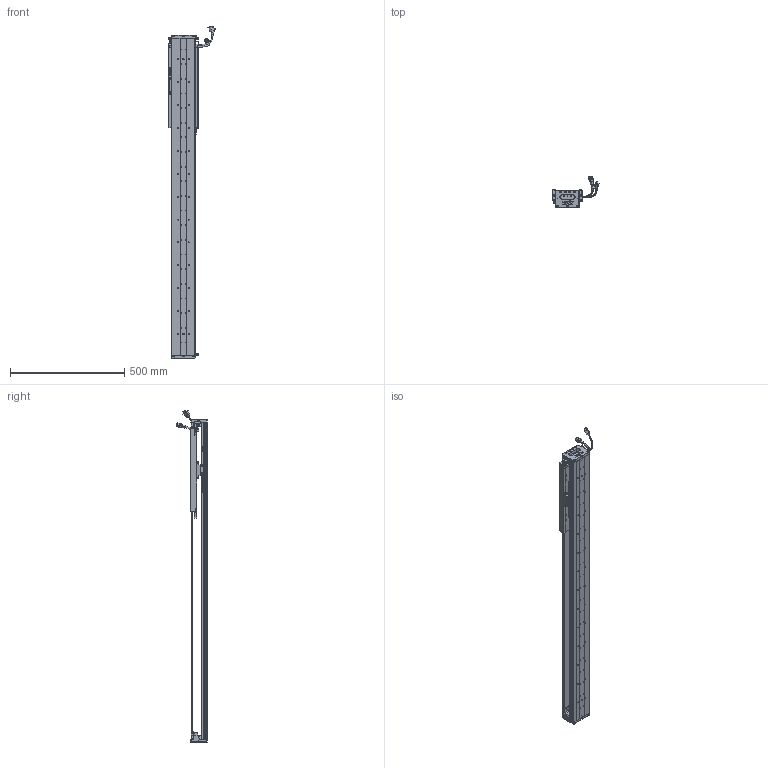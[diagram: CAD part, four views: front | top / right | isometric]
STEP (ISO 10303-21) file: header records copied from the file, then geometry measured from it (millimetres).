
FILE_DESCRIPTION (( 'STEP AP203' ), '1' );
FILE_NAME ('Z5-RY100D-1-L500-B-K.SLDASM_0950.step', '2021-05-17T03:32:56', ( '盈信电脑' ), ( '东莞市道滘镇水果街19号' ), 'SwSTEP 2.0', 'SolidWorks 2016', '' );
FILE_SCHEMA (( 'CONFIG_CONTROL_DESIGN' ));
Length unit declared in the file: millimetre
Products named in the file (36): Z5-RY100-L500詩湍90mm遵_0950; HOLDER0; SCREW-M1.7-1; Z5-RY100D-500-倰第菁釱_0950; HARNESS; SCALE; SCREW-M1.6-1; Z-100詩湍傷裔啣; HARNESS-Part-2; PBU_SHEET; LABEL; PSLH080_PSLF2; SEAL; 140雄赽晤鎢ん堤盄; SCREW-M1.7; SCREW-M1.6-2; 100-Z-臏賑輸盄裔(21遴); 080黍杅芛假蚾釱21遴; 140蚥薯蝶輸; COVER-Part-1; SHIELDPLATE; COVER; 榋妏寠巭燃_暯_M2_2; HARNESS-Part-1; Z-RY100D覜茼んえ; Z-RY100D詩湍奻揤裔; SCREW-M1.6-3; Z5-RY100D-1-L500-B-K.SLDASM_0950; SEAL-Part-1; Z-RY100D詩湍狟揤裔; SCALE-Part-1; LABEL-Part-1; SCREW-M1.6; SCALE-Part-2; Z5-RY100铝滑块（21款）; 覜茼ん672
Assembly tree (43 placements, depth 4):
  Z5-RY100D-1-L500-B-K.SLDASM_0950
    Z5-RY100D-500-倰第菁釱_0950
    Z5-RY100铝滑块（21款）
    PSLH080_PSLF2
      SCALE
        SCALE-Part-1
        SCALE-Part-2
      HARNESS
        HARNESS-Part-1
        HARNESS-Part-2
      LABEL
        LABEL-Part-1
      COVER
        COVER-Part-1
      SEAL
        SEAL-Part-1
      榋妏寠巭燃_暯_M2_2
      SHIELDPLATE
      SCREW-M1.7
      SCREW-M1.7-1
      PBU_SHEET
      SCREW-M1.6
      SCREW-M1.6-1
      SCREW-M1.6-2
      SCREW-M1.6-3
      HOLDER0
    080黍杅芛假蚾釱21遴
    Z-100詩湍傷裔啣  x2
    140蚥薯蝶輸  x2
    覜茼ん672  x3
    Z-RY100D覜茼んえ  x3
    100-Z-臏賑輸盄裔(21遴)
    140雄赽晤鎢ん堤盄
    Z5-RY100-L500詩湍90mm遵_0950
    Z-RY100D詩湍狟揤裔  x2
    Z-RY100D詩湍奻揤裔  x2
Bounding box: 205.84 x 136.11 x 1450.43 mm (x, y, z)
Volume: 3150083.1 mm3; surface area: 1180297.2 mm2
Topology: 38 solids, 38 shells, 2671 faces, 7063 edges, 4476 vertices
Faces by surface type: cylinder 1190, plane 1133, cone 226, torus 69, bspline 53
Entity records: 73541 total; most frequent: CARTESIAN_POINT 15459, DIRECTION 11701, ORIENTED_EDGE 11006, EDGE_CURVE 5503, AXIS2_PLACEMENT_3D 4326, VERTEX_POINT 3544, LINE 3049, VECTOR 3049
